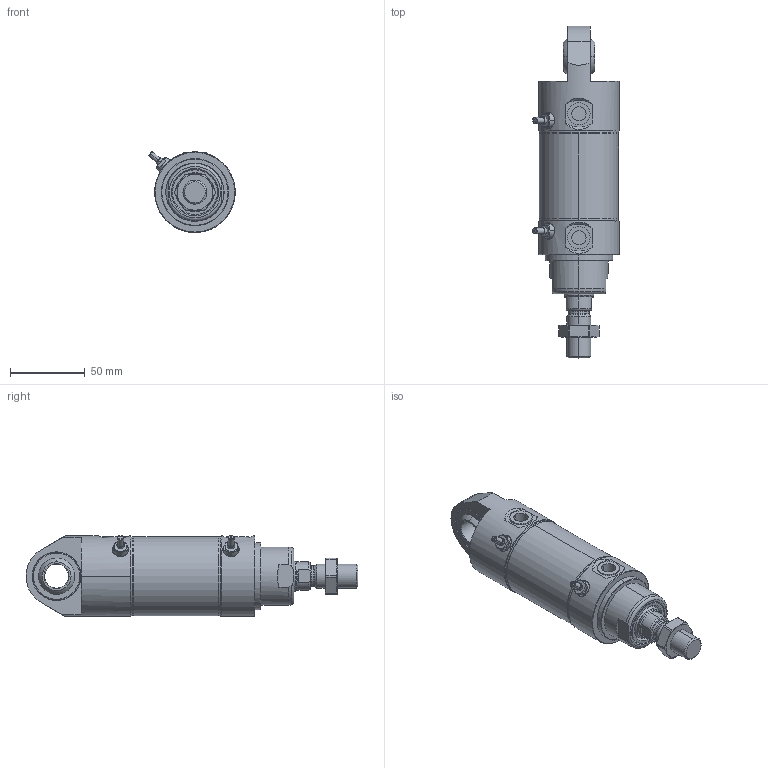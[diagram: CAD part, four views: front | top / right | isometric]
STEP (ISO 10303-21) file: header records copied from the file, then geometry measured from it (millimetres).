
FILE_DESCRIPTION(('STEP AP203'),'1');
FILE_NAME('86M50F0000 - course 0mm.stp','2022-06-09T07:22:07',(' '),(' '),'Spatial InterOp 3D',' ',' ');
FILE_SCHEMA(('CONFIG_CONTROL_DESIGN'));
Length unit declared in the file: metre
Products named in the file (32): 885419S_oa_2; 885419_oa_3; 885421 - Snodo 16-32-DIN ISO 12240; 079584_oa_1; 880431 - OR 47_oa_5; 884754; 880160 - 7x1; 881787; 885372_oa_6; 028016-OR 2010- 2.57x1.78 NBR_oa_7; 885420; 079581_oa_0; 079583_oa_8; 885418_oa_9; 880431 - OR 47_oa_10; 028016-OR 2010- 2.57x1.78 NBR_oa_12; 885372_oa_13; 880270 - 28,3x1,78 NBR_oa_14; 881833; 060096 - 20-24-20; 881686; 078463_oa_15; 881271_oa_16; 881271_oa_17; 881219 - Z8 50 PUR_oa_19; 881219 - Z8 50 PUR_oa_20; 881216_oa_24; 041464 - Dado M16x1.5 basso INOX; 990339; 86M50F0000 - course 0mm; 000680_oa_26; 000679_oa_27
Assembly tree (36 placements, depth 5):
  86M50F0000 - course 0mm
    079581_oa_0
      079584_oa_1
        885419S_oa_2
          885419_oa_3
          885421 - Snodo 16-32-DIN ISO 12240
        880431 - OR 47_oa_5
        884754
        880160 - 7x1
        881787
        885372_oa_6
        028016-OR 2010- 2.57x1.78 NBR_oa_7
        885420
      079583_oa_8
        885418_oa_9
        880431 - OR 47_oa_10
        881787
        885420
        028016-OR 2010- 2.57x1.78 NBR_oa_12
        885372_oa_13
        880270 - 28,3x1,78 NBR_oa_14
        881833
        880160 - 7x1
        060096 - 20-24-20
        881686
        884754
      078463_oa_15
        881271_oa_16
        881271_oa_17
        881219 - Z8 50 PUR_oa_19
        881219 - Z8 50 PUR_oa_20
        881216_oa_24
      041464 - Dado M16x1.5 basso INOX
      990339  x2
    000680_oa_26
    000679_oa_27
Bounding box: 57.95 x 222.3 x 54.24 mm (x, y, z)
Volume: 200227.2 mm3; surface area: 93881.1 mm2
Topology: 36 solids, 36 shells, 678 faces, 1507 edges, 930 vertices
Faces by surface type: cylinder 232, cone 214, plane 166, torus 54, bspline 8, sphere 4
Entity records: 19227 total; most frequent: CARTESIAN_POINT 4042, DIRECTION 3187, ORIENTED_EDGE 2618, AXIS2_PLACEMENT_3D 1359, EDGE_CURVE 1309, VERTEX_POINT 808, CIRCLE 737, EDGE_LOOP 665
